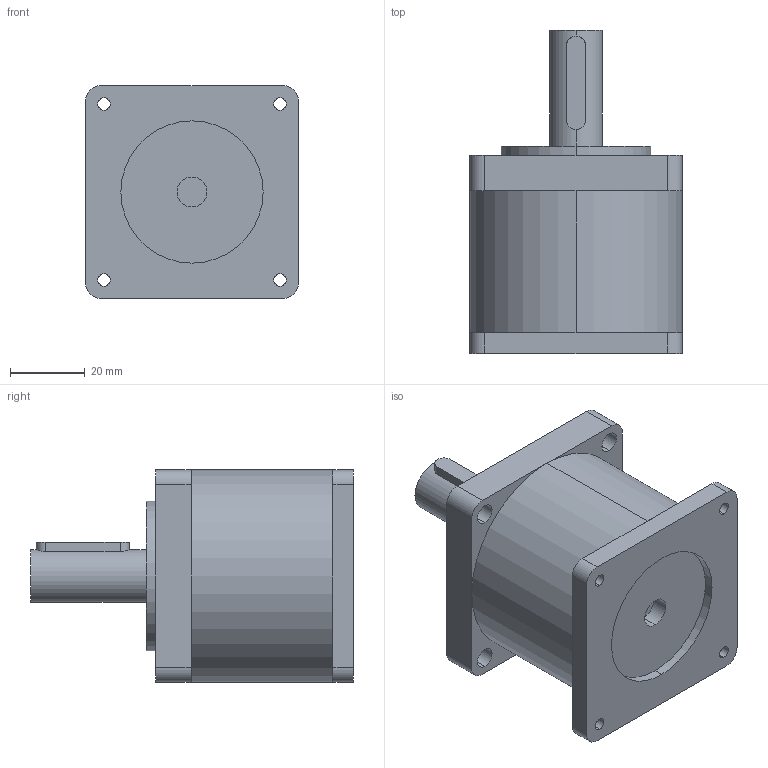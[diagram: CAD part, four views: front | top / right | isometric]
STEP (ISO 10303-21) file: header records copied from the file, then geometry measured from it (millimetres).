
FILE_DESCRIPTION (( 'STEP AP214' ), '1' );
FILE_NAME ('57PLF熬厒儂等撰.STEP', '2021-02-22T08:21:55', ( 'wimxt.com' ), ( 'wimxt.com' ), 'SwSTEP 2.0', 'SolidWorks 2014', '' );
FILE_SCHEMA (( 'AUTOMOTIVE_DESIGN' ));
Length unit declared in the file: millimetre
Products named in the file (1): 57PLF熬厒儂等撰
Bounding box: 57 x 86.5 x 57 mm (x, y, z)
Volume: 149397.6 mm3; surface area: 20926.9 mm2
Topology: 1 solids, 1 shells, 65 faces, 163 edges, 103 vertices
Faces by surface type: cylinder 38, plane 25, cone 2
Entity records: 2183 total; most frequent: CARTESIAN_POINT 396, DIRECTION 367, ORIENTED_EDGE 322, EDGE_CURVE 161, AXIS2_PLACEMENT_3D 144, VERTEX_POINT 103, EDGE_LOOP 86, VECTOR 79
